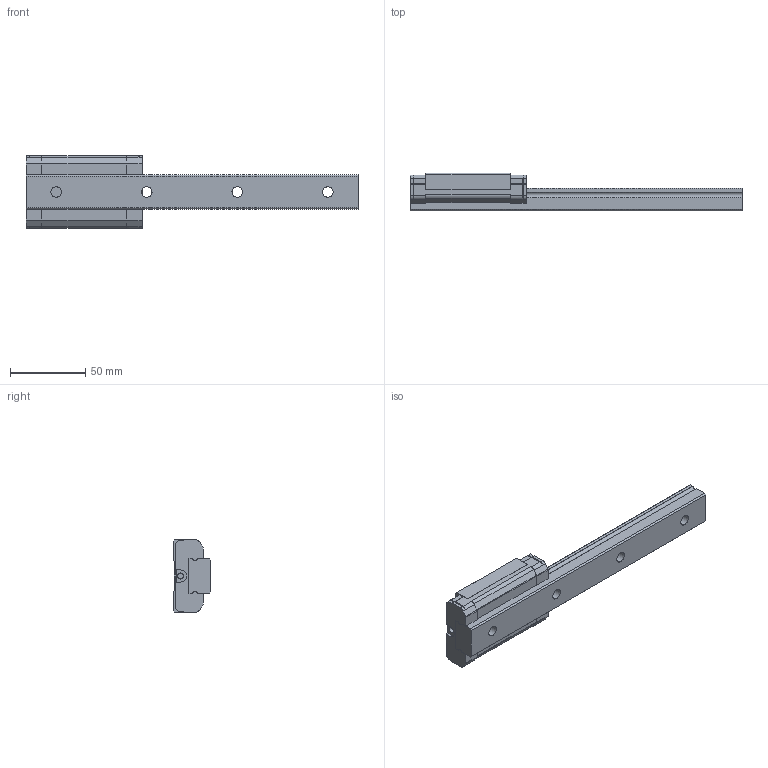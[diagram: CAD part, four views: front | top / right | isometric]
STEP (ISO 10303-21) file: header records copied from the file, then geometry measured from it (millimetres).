
FILE_DESCRIPTION(/* description */ ('STEP AP203'),/* implementation_level */ '2;1');
FILE_NAME(/* name */ 'SRS25MSS-220LM_G20_0_Without_grease_nipple_0_0_0_0_1',/* time_stamp */ '2024-05-17T09:13:31+02:00',/* author */ ('License CC BY-ND 4.0'),/* organization */ ('CADENAS'),/* preprocessor_version */ 'ST-DEVELOPER v19.3',/* originating_system */ 'PARTsolutions',/* authorisation */ ' ');
FILE_SCHEMA (('CONFIG_CONTROL_DESIGN'));
Length unit declared in the file: millimetre
Products named in the file (3): SRS25MSS-220LM_G20_0_Without_grease_nipple_0_0_0_0_1; SRS25M22020 Track; SRS25MSS1 Slider
Assembly tree (2 placements, depth 2):
  SRS25MSS-220LM_G20_0_Without_grease_nipple_0_0_0_0_1
    SRS25M22020 Track
    SRS25MSS1 Slider
Bounding box: 220 x 25 x 48 mm (x, y, z)
Volume: 120736.6 mm3; surface area: 32461.2 mm2
Topology: 2 solids, 2 shells, 166 faces, 444 edges, 288 vertices
Faces by surface type: plane 116, cylinder 42, cone 8
Full cylindrical faces by diameter (mm): 4 x2, 4.917 x4, 7 x4, 11 x4
Entity records: 5057 total; most frequent: CARTESIAN_POINT 867, DIRECTION 848, ORIENTED_EDGE 828, EDGE_CURVE 414, LINE 318, VECTOR 318, VERTEX_POINT 284, AXIS2_PLACEMENT_3D 265
